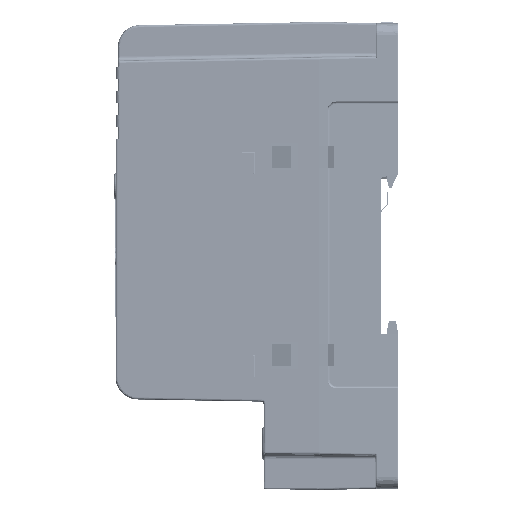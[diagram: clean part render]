
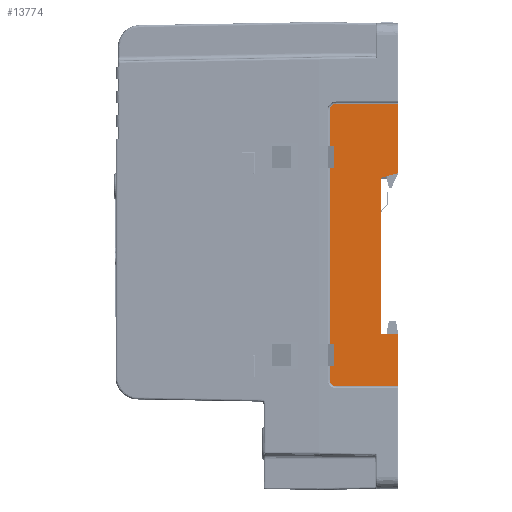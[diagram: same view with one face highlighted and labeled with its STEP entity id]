
A CAD part, left-side view. The second image highlights one B-rep face of the part: STEP entity #13774.
In plain terms, the highlighted planar face has unit normal (-1, -0.018, 0).
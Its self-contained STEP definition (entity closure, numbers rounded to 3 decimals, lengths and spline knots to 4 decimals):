
#40=DIRECTION('',(0.,0.,1.));
#41=VECTOR('',#40,0.6192);
#42=CARTESIAN_POINT('',(-2.0284,0.,0.6569));
#43=LINE('',#42,#41);
#198=DIRECTION('',(0.,0.,1.));
#199=VECTOR('',#198,0.4618);
#200=CARTESIAN_POINT('',(-2.0284,0.,-1.2436));
#201=LINE('',#200,#199);
#472=CARTESIAN_POINT('',(-2.038,0.5515,
-1.2436));
#473=CARTESIAN_POINT('',(-2.0381,0.5578,
-1.2436));
#474=CARTESIAN_POINT('',(-2.0383,0.5695,
-1.2417));
#475=CARTESIAN_POINT('',(-2.0386,0.5854,
-1.2339));
#476=CARTESIAN_POINT('',(-2.0388,0.597,
-1.2231));
#477=CARTESIAN_POINT('',(-2.0389,0.6044,
-1.2119));
#478=CARTESIAN_POINT('',(-2.039,0.6091,
-1.1998));
#479=CARTESIAN_POINT('',(-2.039,0.6106,
-1.1898));
#480=CARTESIAN_POINT('',(-2.039,0.6106,
-1.1845));
#482=DIRECTION('',(0.,0.,1.));
#483=VECTOR('',#482,0.1181);
#484=CARTESIAN_POINT('',(-2.039,0.6106,
-1.1845));
#485=LINE('',#484,#483);
#486=DIRECTION('',(0.017,-1.,0.));
#487=VECTOR('',#486,0.0398);
#488=CARTESIAN_POINT('',(-2.039,0.6106,
-1.0664));
#489=LINE('',#488,#487);
#490=DIRECTION('',(0.,0.,-1.));
#491=VECTOR('',#490,0.1969);
#492=CARTESIAN_POINT('',(-2.0383,0.5707,
-0.8696));
#493=LINE('',#492,#491);
#494=DIRECTION('',(0.017,-1.,0.));
#495=VECTOR('',#494,0.0398);
#496=CARTESIAN_POINT('',(-2.039,0.6106,
-0.8696));
#497=LINE('',#496,#495);
#498=DIRECTION('',(0.,0.,1.));
#499=VECTOR('',#498,1.5748);
#500=CARTESIAN_POINT('',(-2.039,0.6106,
-0.8696));
#501=LINE('',#500,#499);
#502=DIRECTION('',(0.017,-1.,0.));
#503=VECTOR('',#502,0.0398);
#504=CARTESIAN_POINT('',(-2.039,0.6106,
0.7053));
#505=LINE('',#504,#503);
#506=DIRECTION('',(0.,0.,1.));
#507=VECTOR('',#506,0.1969);
#508=CARTESIAN_POINT('',(-2.0383,0.5707,
0.7053));
#509=LINE('',#508,#507);
#510=DIRECTION('',(0.017,-1.,0.));
#511=VECTOR('',#510,0.0398);
#512=CARTESIAN_POINT('',(-2.039,0.6106,
0.9021));
#513=LINE('',#512,#511);
#514=DIRECTION('',(0.,0.,1.));
#515=VECTOR('',#514,0.315);
#516=CARTESIAN_POINT('',(-2.039,0.6106,
0.9021));
#517=LINE('',#516,#515);
#518=CARTESIAN_POINT('',(-2.039,0.6106,1.2171));
#519=CARTESIAN_POINT('',(-2.039,0.6106,1.2233));
#520=CARTESIAN_POINT('',(-2.039,0.6087,1.235));
#521=CARTESIAN_POINT('',(-2.0389,0.6009,1.251));
#522=CARTESIAN_POINT('',(-2.0387,0.5901,1.2625));
#523=CARTESIAN_POINT('',(-2.0385,0.5789,1.2699));
#524=CARTESIAN_POINT('',(-2.0383,0.5668,1.2747));
#525=CARTESIAN_POINT('',(-2.0381,0.5569,1.2761));
#526=CARTESIAN_POINT('',(-2.038,0.5515,1.2761));
#528=DIRECTION('',(0.017,-1.,0.));
#529=VECTOR('',#528,0.5516);
#530=CARTESIAN_POINT('',(-2.038,0.5515,1.2761));
#531=LINE('',#530,#529);
#532=DIRECTION('',(-0.017,1.,0.));
#533=VECTOR('',#532,0.5516);
#534=CARTESIAN_POINT('',(-2.0284,0.,-1.2436));
#535=LINE('',#534,#533);
#6067=DIRECTION('',(-0.017,0.966,-0.259));
#6068=VECTOR('',#6067,0.1631);
#6069=CARTESIAN_POINT('',(-2.0284,0.,0.6569));
#6070=LINE('',#6069,#6068);
#6371=DIRECTION('',(0.,0.,1.));
#6372=VECTOR('',#6371,1.3937);
#6373=CARTESIAN_POINT('',(-2.0311,0.1575,
-0.779));
#6374=LINE('',#6373,#6372);
#7371=DIRECTION('',(0.017,-1.,-0.017));
#7372=VECTOR('',#7371,0.1575);
#7373=CARTESIAN_POINT('',(-2.0311,0.1575,
-0.779));
#7374=LINE('',#7373,#7372);
#11094=CARTESIAN_POINT('',(-2.0284,0.,0.6569));
#11095=CARTESIAN_POINT('',(-2.0311,0.1575,
0.6147));
#11096=VERTEX_POINT('',#11094);
#11097=VERTEX_POINT('',#11095);
#11130=CARTESIAN_POINT('',(-2.0383,0.5707,
-0.8696));
#11131=VERTEX_POINT('',#11130);
#11132=CARTESIAN_POINT('',(-2.0383,0.5707,
-1.0664));
#11133=VERTEX_POINT('',#11132);
#11142=CARTESIAN_POINT('',(-2.0383,0.5707,
0.7053));
#11143=VERTEX_POINT('',#11142);
#11144=CARTESIAN_POINT('',(-2.0383,0.5707,
0.9021));
#11145=VERTEX_POINT('',#11144);
#11754=CARTESIAN_POINT('',(-2.0311,0.1575,
-0.779));
#11755=VERTEX_POINT('',#11754);
#11756=CARTESIAN_POINT('',(-2.0284,0.,-0.7817));
#11757=VERTEX_POINT('',#11756);
#12165=VERTEX_POINT('',#472);
#12166=VERTEX_POINT('',#480);
#12171=CARTESIAN_POINT('',(-2.0284,0.,-1.2436));
#12172=VERTEX_POINT('',#12171);
#12173=CARTESIAN_POINT('',(-2.039,0.6106,
-1.0664));
#12174=VERTEX_POINT('',#12173);
#12177=CARTESIAN_POINT('',(-2.038,0.5515,
1.2761));
#12178=CARTESIAN_POINT('',(-2.0284,0.,1.2761));
#12179=VERTEX_POINT('',#12177);
#12180=VERTEX_POINT('',#12178);
#12185=VERTEX_POINT('',#518);
#12191=CARTESIAN_POINT('',(-2.039,0.6106,
-0.8696));
#12192=CARTESIAN_POINT('',(-2.039,0.6106,
0.7053));
#12193=VERTEX_POINT('',#12191);
#12194=VERTEX_POINT('',#12192);
#12233=CARTESIAN_POINT('',(-2.039,0.6106,
0.9021));
#12234=VERTEX_POINT('',#12233);
#13733=CARTESIAN_POINT('',(-2.0407,0.7087,
-1.3406));
#13734=DIRECTION('',(-1.,-0.017,0.));
#13735=DIRECTION('',(0.,0.,1.));
#13736=AXIS2_PLACEMENT_3D('',#13733,#13734,#13735);
#13737=PLANE('',#13736);
#13739=ORIENTED_EDGE('',*,*,#13738,.T.);
#13741=ORIENTED_EDGE('',*,*,#13740,.T.);
#13743=ORIENTED_EDGE('',*,*,#13742,.T.);
#13745=ORIENTED_EDGE('',*,*,#13744,.F.);
#13747=ORIENTED_EDGE('',*,*,#13746,.F.);
#13749=ORIENTED_EDGE('',*,*,#13748,.T.);
#13751=ORIENTED_EDGE('',*,*,#13750,.T.);
#13753=ORIENTED_EDGE('',*,*,#13752,.T.);
#13755=ORIENTED_EDGE('',*,*,#13754,.F.);
#13757=ORIENTED_EDGE('',*,*,#13756,.T.);
#13759=ORIENTED_EDGE('',*,*,#13758,.T.);
#13761=ORIENTED_EDGE('',*,*,#13760,.T.);
#13762=ORIENTED_EDGE('',*,*,#13402,.F.);
#13764=ORIENTED_EDGE('',*,*,#13763,.T.);
#13766=ORIENTED_EDGE('',*,*,#13765,.F.);
#13768=ORIENTED_EDGE('',*,*,#13767,.T.);
#13769=ORIENTED_EDGE('',*,*,#13566,.F.);
#13771=ORIENTED_EDGE('',*,*,#13770,.T.);
#13772=EDGE_LOOP('',(#13739,#13741,#13743,#13745,#13747,#13749,#13751,#13753,
#13755,#13757,#13759,#13761,#13762,#13764,#13766,#13768,#13769,#13771));
#13773=FACE_OUTER_BOUND('',#13772,.F.);
#13774=ADVANCED_FACE('',(#13773),#13737,.T.);
#481=B_SPLINE_CURVE_WITH_KNOTS('',3,(#472,#473,#474,#475,#476,#477,#478,#479,
#480),.UNSPECIFIED.,.F.,.F.,(4,1,1,1,1,1,4),(0.,0.1667,
0.3333,0.5,0.6667,0.8333,1.),
.UNSPECIFIED.);
#527=B_SPLINE_CURVE_WITH_KNOTS('',3,(#518,#519,#520,#521,#522,#523,#524,#525,
#526),.UNSPECIFIED.,.F.,.F.,(4,1,1,1,1,1,4),(0.,0.1667,
0.3333,0.5,0.6667,0.8333,1.),
.UNSPECIFIED.);
#13402=EDGE_CURVE('',#11096,#12180,#43,.T.);
#13566=EDGE_CURVE('',#12172,#11757,#201,.T.);
#13738=EDGE_CURVE('',#12165,#12166,#481,.T.);
#13740=EDGE_CURVE('',#12166,#12174,#485,.T.);
#13742=EDGE_CURVE('',#12174,#11133,#489,.T.);
#13744=EDGE_CURVE('',#11131,#11133,#493,.T.);
#13746=EDGE_CURVE('',#12193,#11131,#497,.T.);
#13748=EDGE_CURVE('',#12193,#12194,#501,.T.);
#13750=EDGE_CURVE('',#12194,#11143,#505,.T.);
#13752=EDGE_CURVE('',#11143,#11145,#509,.T.);
#13754=EDGE_CURVE('',#12234,#11145,#513,.T.);
#13756=EDGE_CURVE('',#12234,#12185,#517,.T.);
#13758=EDGE_CURVE('',#12185,#12179,#527,.T.);
#13760=EDGE_CURVE('',#12179,#12180,#531,.T.);
#13763=EDGE_CURVE('',#11096,#11097,#6070,.T.);
#13765=EDGE_CURVE('',#11755,#11097,#6374,.T.);
#13767=EDGE_CURVE('',#11755,#11757,#7374,.T.);
#13770=EDGE_CURVE('',#12172,#12165,#535,.T.);
